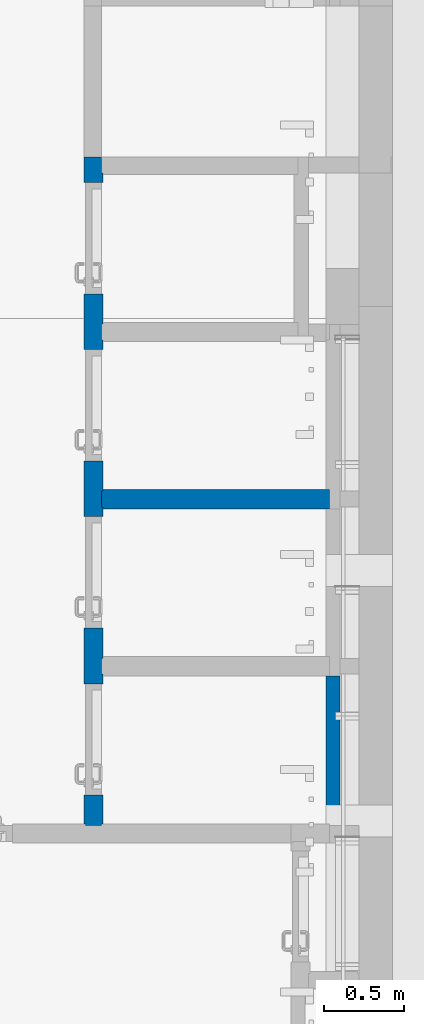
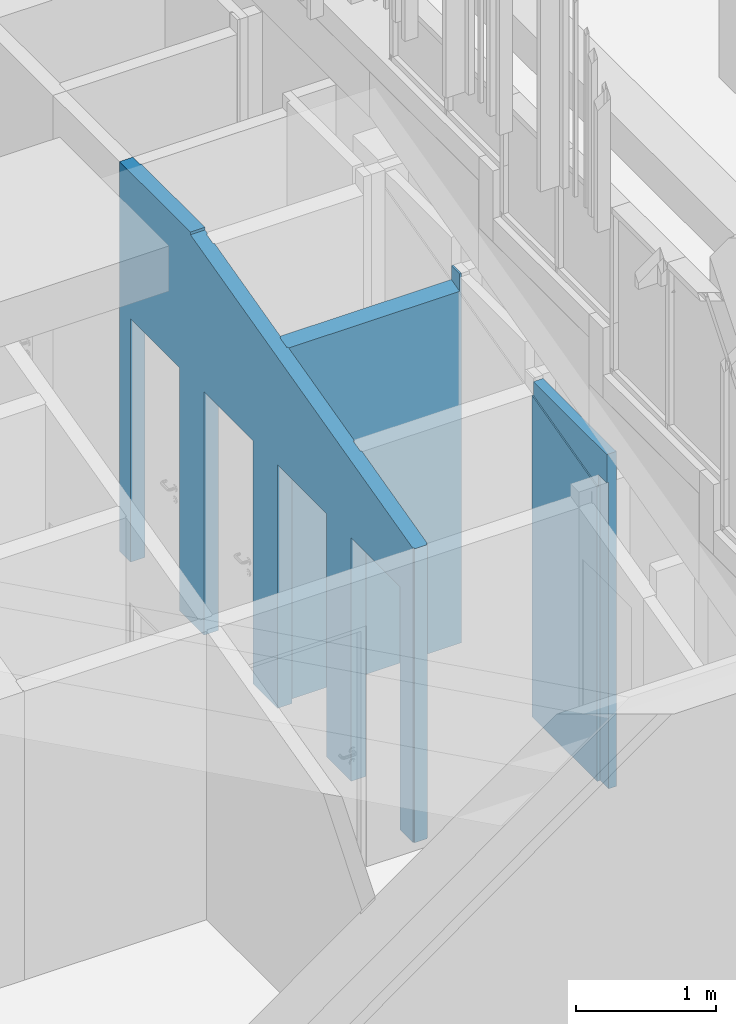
# One storey, part 122 of 390: 3 walls.
"""IFC2X3 building model written with IfcOpenShell, lengths in millimetres."""

from ifc_helpers import new_model, entity, si_unit, converted_unit, derived_unit, money_unit, direction, frame, origin_with_axes, place, context, subcontext, project, spatial, faceted_brep, material, material_list, type_object, element, save


model = new_model("IFC2X3")

# Units and contexts
model_context = context("Model", 3, precision=1e-05, world=origin_with_axes(), true_north=direction((0.0, 1.0)))
body_context = subcontext(model_context, "Body", "Model", "MODEL_VIEW")
ifc_project = project(units=[si_unit("LENGTHUNIT", "METRE", prefix="MILLI"), si_unit("AREAUNIT", "SQUARE_METRE"), si_unit("VOLUMEUNIT", "CUBIC_METRE"), converted_unit("PLANEANGLEUNIT", "DEGREE", entity("IfcPlaneAngleMeasure", 0.0174532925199), si_unit("PLANEANGLEUNIT", "RADIAN"), dimensions=[0, 0, 0, 0, 0, 0, 0]), si_unit("SOLIDANGLEUNIT", "STERADIAN"), money_unit("EUR"), converted_unit("TIMEUNIT", "Year", entity("IfcTimeMeasure", 31556926.0), si_unit("TIMEUNIT", "SECOND"), dimensions=[0, 0, 1, 0, 0, 0, 0]), si_unit("MASSUNIT", "GRAM", prefix="KILO"), si_unit("THERMODYNAMICTEMPERATUREUNIT", "DEGREE_CELSIUS"), si_unit("LUMINOUSINTENSITYUNIT", "LUMEN"), si_unit("ENERGYUNIT", "JOULE", prefix="MEGA"), derived_unit("THERMALCONDUCTANCEUNIT", [(si_unit("POWERUNIT", "WATT"), 1), (si_unit("LENGTHUNIT", "METRE"), -1), (si_unit("THERMODYNAMICTEMPERATUREUNIT", "KELVIN"), -1)]), derived_unit("SPECIFICHEATCAPACITYUNIT", [(si_unit("ENERGYUNIT", "JOULE"), 1), (si_unit("MASSUNIT", "GRAM", prefix="KILO"), -1), (si_unit("THERMODYNAMICTEMPERATUREUNIT", "KELVIN"), -1)]), derived_unit("MASSDENSITYUNIT", [(si_unit("MASSUNIT", "GRAM", prefix="KILO"), 1), (si_unit("VOLUMEUNIT", "CUBIC_METRE"), -1)])], contexts=[model_context])

# Site, building, storey
site_placement = place(None, origin_with_axes())
site = spatial("IfcSite", under=ifc_project, at=site_placement, Name="Site", CompositionType="ELEMENT")
building_placement = place(site_placement, origin_with_axes())
building = spatial("IfcBuilding", under=site, at=building_placement, Name="Building", CompositionType="ELEMENT")
storey_placement = place(building_placement, origin_with_axes())
storey = spatial("IfcBuildingStorey", under=building, at=storey_placement, Name="1 korrus", CompositionType="ELEMENT", Elevation=0.0)

# Walls
ifc_material_1 = material(Name="Krohv - Lubjakivi")
ifc_material_2 = material(Name="Müüriplokk - Konstuktsioon")
ifc_material_list_1 = material_list([ifc_material_1, ifc_material_2, ifc_material_1])
wall_type_1 = type_object("IfcWallType", Name="SS-07", PredefinedType="NOTDEFINED")
wall_1_placement = place(storey_placement, frame((121079.999992, 63220.00001, -620.0), z_axis=(0.0, 0.0, 1.0), x_axis=(1.0, 0.0, 0.0)))
element("IfcWall", 1, at=wall_1_placement, inside=storey, type_object=wall_type_1, material=ifc_material_list_1, Name="SS-07", context=body_context, shape_type="Brep", body=[
    faceted_brep([(10.0, 0.0, 3098.71217311), (1420.00000789, 0.0, 3098.71217311), (1420.00000789, 0.0, 3220.31405444), (1434.00000765, 0.0, 3220.31405444), (1434.00000874, 0.0, 0.0), (10.0, 0.0, 0.0), (10.0, -10.0, 3096.17249665), (1420.00000789, -10.0, 3096.17249665), (1420.00000789, -10.0, 3220.31405444), (1434.00000764, -10.0, 3220.31405444), (1434.00000874, -10.0, 0.0), (10.0, -10.0, 0.0)], [[[0, 1, 2, 3, 4, 5]], [[1, 0, 6, 7]], [[8, 2, 1, 7]], [[2, 8, 9, 3]], [[4, 3, 9, 10]], [[5, 4, 10, 11]], [[6, 0, 5, 11]], [[7, 6, 11, 10, 9, 8]]]),
    faceted_brep([(0.0, -10.0, 3096.17249665), (1420.00000789, -10.0, 3096.17249665), (1420.00000789, -10.0, 3220.31405444), (1434.00000764, -10.0, 3220.31405444), (1434.00000874, -10.0, 0.0), (0.0, -10.0, 0.0), (0.0, -110.0, 3070.775732), (1420.00000787, -110.0, 3070.775732), (1420.00000787, -110.0, 3220.31405444), (1434.00000753, -110.0, 3220.31405444), (1434.00000874, -110.0, 0.0), (0.0, -110.0, 0.0)], [[[0, 1, 2, 3, 4, 5]], [[1, 0, 6, 7]], [[8, 2, 1, 7]], [[2, 8, 9, 3]], [[4, 3, 9, 10]], [[5, 4, 10, 11]], [[6, 0, 5, 11]], [[7, 6, 11, 10, 9, 8]]]),
    faceted_brep([(10.0, -110.0, 3070.775732), (1420.00000787, -110.0, 3070.775732), (1420.00000787, -110.0, 3220.31405444), (1434.00000753, -110.0, 3220.31405444), (1434.00000874, -110.0, 0.0), (10.0, -110.0, 0.0), (10.0, -120.0, 3068.23605554), (1420.00000787, -120.0, 3068.23605554), (1420.00000787, -120.0, 3220.31405444), (1434.00000752, -120.0, 3220.31405444), (1434.00000874, -120.0, 0.0), (10.0, -120.0, 0.0)], [[[0, 1, 2, 3, 4, 5]], [[1, 0, 6, 7]], [[8, 2, 1, 7]], [[2, 8, 9, 3]], [[4, 3, 9, 10]], [[5, 4, 10, 11]], [[6, 0, 5, 11]], [[7, 6, 11, 10, 9, 8]]]),
])
ifc_material_list_2 = material_list([ifc_material_1, ifc_material_1, ifc_material_1, ifc_material_1, ifc_material_2, ifc_material_1])
wall_2_placement = place(storey_placement, frame((121079.999992, 65310.00001, -620.0), z_axis=(0.0, 0.0, 1.0), x_axis=(0.0, -1.0, 0.0)))
element("IfcWall", 2, at=wall_2_placement, inside=storey, type_object=wall_type_1, material=ifc_material_list_2, Name="SS-07", context=body_context, shape_type="Brep", body=[
    faceted_brep([(100.0, -2.17426077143e-09, 3395.23675944), (100.0, 10.0000000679, 3395.23675944), (100.0, 10.0, 0.0), (100.0, -2.17426077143e-09, 0.0), (1013.68143733, 10.0000026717, 3395.23675944), (1013.68143733, -3.29094973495e-07, 3395.23675944), (1013.68143677, 10.0000030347, 3372.06226548), (1050.00000002, 10.0000029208, 3362.83852545), (1050.00000002, 10.0, 0.0), (860.0, 10.0, 0.0), (860.0, 10.0000030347, 20.0), (860.0, 10.0, 2120.0), (160.0, 10.0, 2120.0), (160.0, 10.0000030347, 20.0), (160.0, 10.0, 0.0), (160.0, -2.145839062e-09, 0.0), (160.0, -3.7471181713e-07, 20.0), (160.0, -3.7471181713e-07, 2120.0), (860.0, -3.7471181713e-07, 2120.0), (860.0, -3.7471181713e-07, 20.0), (860.0, -1.7763568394e-09, 0.0), (1050.00000002, -1.67688085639e-09, 0.0), (1050.00000002, -3.60699914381e-07, 3362.83852545), (1013.68143677, -3.7471181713e-07, 3372.06226548)], [[[0, 1, 2, 3]], [[4, 1, 0, 5]], [[1, 4, 6, 7, 8, 9, 10, 11, 12, 13, 14, 2]], [[3, 2, 14, 15]], [[5, 0, 3, 15, 16, 17, 18, 19, 20, 21, 22, 23]], [[4, 5, 23, 6]], [[22, 7, 6, 23]], [[8, 7, 22, 21]], [[8, 21, 20, 9]], [[10, 9, 20, 19]], [[10, 19, 18, 11]], [[11, 18, 17, 12]], [[12, 17, 16, 13]], [[16, 15, 14, 13]]]),
    faceted_brep([(3250.00000002, -3.56621399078e-07, 2804.1097032), (3250.00000002, 10.000002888, 2804.1097032), (3250.00000002, 10.0, 0.0), (3250.00000002, -5.54223333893e-10, 0.0), (4189.99999985, 10.0000029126, 2565.38011556), (4189.99999985, -3.59634100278e-07, 2565.38011556), (4189.99999985, 10.0, 0.0), (4010.0, 10.0, 0.0), (4010.0, 10.0000030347, 20.0), (4010.0, 10.0000030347, 2120.0), (3310.0, 10.0000030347, 2120.0), (3310.0, 10.0000030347, 20.0), (3310.0, 10.0, 0.0), (3310.0, -5.25801624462e-10, 0.0), (3310.0, -3.7471181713e-07, 20.0), (3310.0, -3.7471181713e-07, 2120.0), (4010.0, -3.7471181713e-07, 2120.0), (4010.0, -3.7471181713e-07, 20.0), (4010.0, -1.56319401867e-10, 0.0), (4189.99999985, 0.0, 0.0)], [[[0, 1, 2, 3]], [[4, 1, 0, 5]], [[1, 4, 6, 7, 8, 9, 10, 11, 12, 2]], [[2, 12, 13, 3]], [[5, 0, 3, 13, 14, 15, 16, 17, 18, 19]], [[4, 5, 19, 6]], [[19, 18, 7, 6]], [[18, 17, 8, 7]], [[16, 9, 8, 17]], [[15, 10, 9, 16]], [[14, 11, 10, 15]], [[12, 11, 14, 13]]]),
    faceted_brep([(2200.00000002, -3.57360363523e-07, 3070.775732), (2200.00000002, 10.0000028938, 3070.775732), (2200.00000002, 10.0, 0.0), (2200.00000002, -1.09423581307e-09, 0.0), (3150.00000002, 10.0000029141, 2829.50646785), (3150.00000002, -3.59847263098e-07, 2829.50646785), (3150.00000002, 10.0, 0.0), (2960.0, 10.0, 0.0), (2960.0, 10.0000030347, 20.0), (2960.0, 10.0000030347, 2120.0), (2260.0, 10.0000030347, 2120.0), (2260.0, 10.0000030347, 20.0), (2260.0, 10.0, 0.0), (2260.0, -1.06581410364e-09, 0.0), (2260.0, -3.7471181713e-07, 20.0), (2260.0, -3.7471181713e-07, 2120.0), (2960.0, -3.7471181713e-07, 2120.0), (2960.0, -3.7471181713e-07, 20.0), (2960.0, -6.96331881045e-10, 0.0), (3150.00000002, -5.96855898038e-10, 0.0)], [[[0, 1, 2, 3]], [[4, 1, 0, 5]], [[1, 4, 6, 7, 8, 9, 10, 11, 12, 2]], [[2, 12, 13, 3]], [[5, 0, 3, 13, 14, 15, 16, 17, 18, 19]], [[4, 5, 19, 6]], [[19, 18, 7, 6]], [[17, 8, 7, 18]], [[9, 8, 17, 16]], [[10, 9, 16, 15]], [[11, 10, 15, 14]], [[11, 14, 13, 12]]]),
    faceted_brep([(1150.00000002, -3.57999851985e-07, 3337.4417608), (1150.00000002, 10.0000028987, 3337.4417608), (1150.00000002, 10.0, 0.0), (1150.00000002, -1.63424829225e-09, 0.0), (2100.00000002, 10.0000029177, 3096.17249665), (2100.00000002, -3.60316221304e-07, 3096.17249665), (2100.00000002, 10.0, 0.0), (1910.0, 10.0, 0.0), (1910.0, 10.0000030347, 20.0), (1910.0, 10.0000030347, 2120.0), (1210.0, 10.0000030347, 2120.0), (1210.0, 10.0000030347, 20.0), (1210.0, 10.0, 0.0), (1210.0, -1.60582658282e-09, 0.0), (1210.0, -3.7471181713e-07, 20.0), (1210.0, -3.7471181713e-07, 2120.0), (1910.0, -3.7471181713e-07, 2120.0), (1910.0, -3.7471181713e-07, 20.0), (1910.0, -1.23634436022e-09, 0.0), (2100.00000002, -1.13686837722e-09, 0.0)], [[[0, 1, 2, 3]], [[4, 1, 0, 5]], [[1, 4, 6, 7, 8, 9, 10, 11, 12, 2]], [[2, 12, 13, 3]], [[5, 0, 3, 13, 14, 15, 16, 17, 18, 19]], [[4, 5, 19, 6]], [[19, 18, 7, 6]], [[8, 7, 18, 17]], [[8, 17, 16, 9]], [[9, 16, 15, 10]], [[10, 15, 14, 11]], [[14, 13, 12, 11]]]),
    faceted_brep([(0.0, -100.0, 3395.23675944), (0.0, 0.0, 3395.23675944), (0.0, 0.0, 0.0), (0.0, -100.0, 0.0), (1013.68143733, -3.29890781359e-07, 3395.23675944), (1013.68143732, -99.9999998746, 3395.23675944), (1013.68143677, -3.7471181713e-07, 3372.06226548), (4199.99999985, -3.5927882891e-07, 2562.84043909), (4199.99999985, 0.0, 0.0), (4010.0, 0.0, 0.0), (4010.0, -3.7471181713e-07, 20.0), (4010.0, -3.7471181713e-07, 2120.0), (3310.0, -3.7471181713e-07, 2120.0), (3310.0, -3.7471181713e-07, 20.0), (3310.0, 0.0, 0.0), (2960.0, 0.0, 0.0), (2960.0, -3.7471181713e-07, 20.0), (2960.0, -3.7471181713e-07, 2120.0), (2260.0, -3.7471181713e-07, 2120.0), (2260.0, -3.7471181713e-07, 20.0), (2260.0, 0.0, 0.0), (1910.0, 0.0, 0.0), (1910.0, -3.7471181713e-07, 20.0), (1910.0, -3.7471181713e-07, 2120.0), (1210.0, -3.7471181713e-07, 2120.0), (1210.0, -3.7471181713e-07, 20.0), (1210.0, 0.0, 0.0), (860.0, 0.0, 0.0), (860.0, -3.7471181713e-07, 20.0), (860.0, 0.0, 2120.0), (160.0, 0.0, 2120.0), (160.0, -3.7471181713e-07, 20.0), (160.0, 0.0, 0.0), (160.0, -100.0, 0.0), (160.0, -100.0, 20.0), (160.0, -100.0, 2120.0), (860.0, -100.0, 2120.0), (860.0, -100.0, 20.0), (860.0, -100.0, 0.0), (1210.0, -100.0, 0.0), (1210.0, -100.0, 20.0), (1210.0, -100.0, 2120.0), (1910.0, -100.0, 2120.0), (1910.0, -100.0, 20.0), (1910.0, -100.0, 0.0), (2260.0, -100.0, 0.0), (2260.0, -100.0, 20.0), (2260.0, -100.0, 2120.0), (2960.0, -100.0, 2120.0), (2960.0, -100.0, 20.0), (2960.0, -100.0, 0.0), (3310.0, -100.0, 0.0), (3310.0, -100.0, 20.0), (3310.0, -100.0, 2120.0), (4010.0, -100.0, 2120.0), (4010.0, -100.0, 20.0), (4010.0, -100.0, 0.0), (4199.99999985, -100.0, 0.0), (4199.99999985, -99.999996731, 2562.84043909), (1013.68143676, -100.0, 3372.06226548)], [[[0, 1, 2, 3]], [[4, 1, 0, 5]], [[1, 4, 6, 7, 8, 9, 10, 11, 12, 13, 14, 15, 16, 17, 18, 19, 20, 21, 22, 23, 24, 25, 26, 27, 28, 29, 30, 31, 32, 2]], [[3, 2, 32, 33]], [[5, 0, 3, 33, 34, 35, 36, 37, 38, 39, 40, 41, 42, 43, 44, 45, 46, 47, 48, 49, 50, 51, 52, 53, 54, 55, 56, 57, 58, 59]], [[4, 5, 59, 6]], [[58, 7, 6, 59]], [[8, 7, 58, 57]], [[8, 57, 56, 9]], [[9, 56, 55, 10]], [[55, 54, 11, 10]], [[54, 53, 12, 11]], [[53, 52, 13, 12]], [[51, 14, 13, 52]], [[50, 15, 14, 51]], [[50, 49, 16, 15]], [[48, 17, 16, 49]], [[47, 18, 17, 48]], [[46, 19, 18, 47]], [[20, 19, 46, 45]], [[44, 21, 20, 45]], [[43, 22, 21, 44]], [[23, 22, 43, 42]], [[24, 23, 42, 41]], [[25, 24, 41, 40]], [[25, 40, 39, 26]], [[38, 27, 26, 39]], [[28, 27, 38, 37]], [[28, 37, 36, 29]], [[29, 36, 35, 30]], [[30, 35, 34, 31]], [[34, 33, 32, 31]]]),
    faceted_brep([(0.0, -110.0, 3395.23675944), (0.0, -100.0, 3395.23675944), (0.0, -100.0, 0.0), (0.0, -110.0, 0.0), (1013.68143732, -99.9999998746, 3395.23675944), (1013.68143732, -110.0, 3395.23675944), (1013.68143676, -100.0, 3372.06226548), (4189.99999985, -99.9999967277, 2565.38011556), (4189.99999985, -100.0, 0.0), (4010.0, -100.0, 0.0), (4010.0, -100.0, 20.0), (4010.0, -100.0, 2120.0), (3310.0, -100.0, 2120.0), (3310.0, -100.0, 20.0), (3310.0, -100.0, 0.0), (2960.0, -100.0, 0.0), (2960.0, -100.0, 20.0), (2960.0, -100.0, 2120.0), (2260.0, -100.0, 2120.0), (2260.0, -100.0, 20.0), (2260.0, -100.0, 0.0), (1910.0, -100.0, 0.0), (1910.0, -100.0, 20.0), (1910.0, -100.0, 2120.0), (1210.0, -100.0, 2120.0), (1210.0, -100.0, 20.0), (1210.0, -100.0, 0.0), (860.0, -100.0, 0.0), (860.0, -100.0, 20.0), (860.0, -100.0, 2120.0), (160.0, -100.0, 2120.0), (160.0, -100.0, 20.0), (160.0, -100.0, 0.0), (160.0, -110.0, 0.0), (160.0, -110.0, 20.0), (160.0, -110.0, 2120.0), (860.0, -110.0, 2120.0), (860.0, -110.0, 20.0), (860.0, -110.0, 0.0), (1210.0, -110.0, 0.0), (1210.0, -110.0, 20.0), (1210.0, -110.0, 2120.0), (1910.0, -110.0, 2120.0), (1910.0, -110.0, 20.0), (1910.0, -110.0, 0.0), (2260.0, -110.0, 0.0), (2260.0, -110.0, 20.0), (2260.0, -110.0, 2120.0), (2960.0, -110.0, 2120.0), (2960.0, -110.0, 20.0), (2960.0, -110.0, 0.0), (3310.0, -110.0, 0.0), (3310.0, -110.0, 20.0), (3310.0, -110.0, 2120.0), (4010.0, -110.0, 2120.0), (4010.0, -110.0, 20.0), (4010.0, -110.0, 0.0), (4189.99999985, -110.0, 0.0), (4189.99999985, -110.0, 2565.38011556), (1013.68143676, -110.0, 3372.06226548)], [[[0, 1, 2, 3]], [[4, 1, 0, 5]], [[1, 4, 6, 7, 8, 9, 10, 11, 12, 13, 14, 15, 16, 17, 18, 19, 20, 21, 22, 23, 24, 25, 26, 27, 28, 29, 30, 31, 32, 2]], [[3, 2, 32, 33]], [[5, 0, 3, 33, 34, 35, 36, 37, 38, 39, 40, 41, 42, 43, 44, 45, 46, 47, 48, 49, 50, 51, 52, 53, 54, 55, 56, 57, 58, 59]], [[4, 5, 59, 6]], [[58, 7, 6, 59]], [[8, 7, 58, 57]], [[8, 57, 56, 9]], [[9, 56, 55, 10]], [[55, 54, 11, 10]], [[54, 53, 12, 11]], [[53, 52, 13, 12]], [[51, 14, 13, 52]], [[50, 15, 14, 51]], [[50, 49, 16, 15]], [[48, 17, 16, 49]], [[47, 18, 17, 48]], [[46, 19, 18, 47]], [[20, 19, 46, 45]], [[44, 21, 20, 45]], [[43, 22, 21, 44]], [[23, 22, 43, 42]], [[24, 23, 42, 41]], [[25, 24, 41, 40]], [[25, 40, 39, 26]], [[38, 27, 26, 39]], [[28, 27, 38, 37]], [[28, 37, 36, 29]], [[29, 36, 35, 30]], [[30, 35, 34, 31]], [[34, 33, 32, 31]]]),
])
ifc_material_3 = material(Name="Kipsplaat - Veekindel")
ifc_material_4 = material(Name="Teras")
ifc_material_list_3 = material_list([ifc_material_3, ifc_material_3, ifc_material_4])
wall_type_2 = type_object("IfcWallType", Name="SS-14", PredefinedType="NOTDEFINED")
wall_3_placement = place(storey_placement, frame((122490.0, 61000.0000029, -620.0), z_axis=(0.0, 0.0, 1.0), x_axis=(0.0, 1.0, 0.0)))
element("IfcWall", 3, at=wall_3_placement, inside=storey, type_object=wall_type_2, material=ifc_material_list_3, Name="SS-14", context=body_context, shape_type="Brep", body=[
    faceted_brep([(1050.00000708, 1.23293375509e-06, 2801.57002674), (1050.00000708, -10.0000003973, 2801.57002674), (1050.00000708, -10.0000003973, 2917.93764616), (1050.00000708, -12.0, 2917.93764616), (1050.00000708, -12.0, 0.0), (1050.00000708, 0.0, 0.0), (120.000000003, 1.54834367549e-06, 2565.38011372), (120.000000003, -10.0000002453, 2565.38011372), (120.000000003, -10.0000002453, 2672.90848696), (2.95585778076e-09, -10.0000002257, 2672.90848696), (0.0, -10.0000001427, 2917.93764616), (0.0, -12.0, 2917.93764616), (2.95585778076e-09, -12.0, 2672.90848696), (120.000000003, -12.0, 2672.90848696), (120.000000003, -12.0, 0.0), (120.000000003, 0.0, 0.0)], [[[0, 1, 2, 3, 4, 5]], [[1, 0, 6, 7]], [[2, 1, 7, 8, 9, 10]], [[2, 10, 11, 3]], [[12, 13, 14, 4, 3, 11]], [[4, 14, 15, 5]], [[6, 0, 5, 15]], [[7, 6, 15, 14, 13, 8]], [[9, 8, 13, 12]], [[9, 12, 11, 10]]]),
    faceted_brep([(120.000000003, -24.0, 2672.90848696), (120.000000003, -24.0, 0.0), (1050.00000708, -24.0, 0.0), (1050.00000708, -23.9999988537, 2917.93764616), (0.0, -23.9999985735, 2917.93764616), (2.95585778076e-09, -24.0, 2672.90848696), (120.000000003, -12.0, 2672.90848696), (120.000000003, -12.0, 0.0), (1050.00000708, -12.0, 0.0), (1050.00000708, -12.0, 2917.93764616), (0.0, -12.0, 2917.93764616), (2.95585778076e-09, -12.0, 2672.90848696)], [[[0, 1, 2, 3, 4, 5]], [[1, 0, 6, 7]], [[1, 7, 8, 2]], [[9, 3, 2, 8]], [[3, 9, 10, 4]], [[11, 5, 4, 10]], [[6, 0, 5, 11]], [[6, 11, 10, 9, 8, 7]]]),
    faceted_brep([(1050.00000708, -90.0, 0.0), (1050.00000708, -90.0, 2917.93764616), (0.0, -90.0, 2917.93764616), (0.0, -90.0, 2672.90848696), (2.9487523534e-09, -90.0, 0.0), (1050.00000708, -23.9999988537, 2917.93764616), (1050.00000708, -24.0, 0.0), (0.0, -23.9999985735, 2917.93764616), (2.95585778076e-09, -24.0, 0.0)], [[[0, 1, 2, 3, 4]], [[5, 1, 0, 6]], [[1, 5, 7, 2]], [[4, 3, 2, 7, 8]], [[6, 0, 4, 8]], [[5, 6, 8, 7]]]),
])

save(model, "model.ifc")
